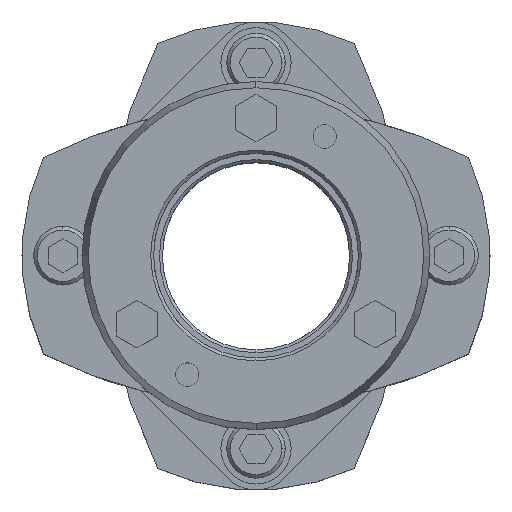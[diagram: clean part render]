
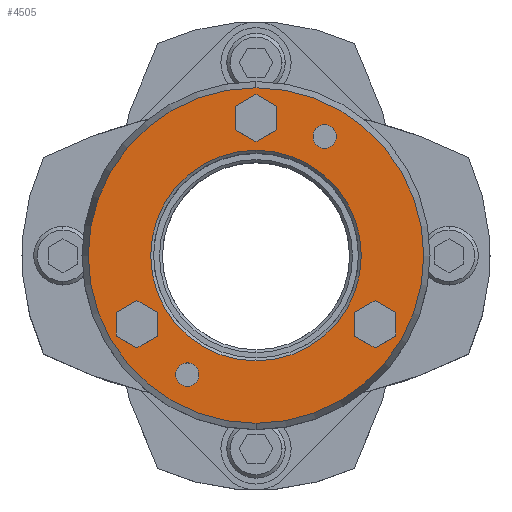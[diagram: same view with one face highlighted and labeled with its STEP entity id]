
A CAD part, top view. The second image highlights one B-rep face of the part: STEP entity #4505.
In plain terms, the highlighted planar face has unit normal (0, 0, 1).
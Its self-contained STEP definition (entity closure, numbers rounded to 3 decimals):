
#2379=CARTESIAN_POINT('',(0.,18.,45.25));
#2380=VERTEX_POINT('',#2379);
#2396=CARTESIAN_POINT('',(0.,-18.,45.25));
#2397=VERTEX_POINT('',#2396);
#2404=CARTESIAN_POINT('',(0.,0.,45.25));
#2405=DIRECTION('',(0.0,0.0,1.0));
#2406=DIRECTION('',(0.,1.0,0.0));
#2407=AXIS2_PLACEMENT_3D('',#2404,#2405,#2406);
#2408=CIRCLE('',#2407,18.0);
#2409=EDGE_CURVE('',#2397,#2380,#2408,.T.);
#2567=CARTESIAN_POINT('',(0.,-28.678,45.25));
#2568=VERTEX_POINT('',#2567);
#2575=CARTESIAN_POINT('',(0.,28.678,45.25));
#2576=VERTEX_POINT('',#2575);
#2577=CARTESIAN_POINT('',(0.,0.,45.25));
#2578=DIRECTION('',(0.0,0.0,-1.0));
#2579=DIRECTION('',(0.,-1.0,0.0));
#2580=AXIS2_PLACEMENT_3D('',#2577,#2578,#2579);
#2581=CIRCLE('',#2580,28.678);
#2582=EDGE_CURVE('',#2568,#2576,#2581,.T.);
#2695=CARTESIAN_POINT('',(-11.75,-18.352,45.25));
#2696=VERTEX_POINT('',#2695);
#2712=CARTESIAN_POINT('',(-11.75,-22.352,45.25));
#2713=VERTEX_POINT('',#2712);
#2720=CARTESIAN_POINT('',(-11.75,-20.352,45.25));
#2721=DIRECTION('',(0.0,0.0,-1.0));
#2722=DIRECTION('',(0.,1.0,0.0));
#2723=AXIS2_PLACEMENT_3D('',#2720,#2721,#2722);
#2724=CIRCLE('',#2723,2.0);
#2725=EDGE_CURVE('',#2696,#2713,#2724,.T.);
#2737=CARTESIAN_POINT('',(11.75,22.352,45.25));
#2738=VERTEX_POINT('',#2737);
#2754=CARTESIAN_POINT('',(11.75,18.352,45.25));
#2755=VERTEX_POINT('',#2754);
#2762=CARTESIAN_POINT('',(11.75,20.352,45.25));
#2763=DIRECTION('',(0.0,0.0,-1.0));
#2764=DIRECTION('',(0.,1.0,0.0));
#2765=AXIS2_PLACEMENT_3D('',#2762,#2763,#2764);
#2766=CIRCLE('',#2765,2.0);
#2767=EDGE_CURVE('',#2738,#2755,#2766,.T.);
#3518=CARTESIAN_POINT('',(11.75,20.352,45.25));
#3519=DIRECTION('',(0.0,0.0,-1.0));
#3520=DIRECTION('',(0.,1.0,0.0));
#3521=AXIS2_PLACEMENT_3D('',#3518,#3519,#3520);
#3522=CIRCLE('',#3521,2.0);
#3523=EDGE_CURVE('',#2755,#2738,#3522,.T.);
#3552=CARTESIAN_POINT('',(-11.75,-20.352,45.25));
#3553=DIRECTION('',(0.0,0.0,-1.0));
#3554=DIRECTION('',(0.,1.0,0.0));
#3555=AXIS2_PLACEMENT_3D('',#3552,#3553,#3554);
#3556=CIRCLE('',#3555,2.0);
#3557=EDGE_CURVE('',#2713,#2696,#3556,.T.);
#3595=CARTESIAN_POINT('',(0.,27.541,45.25));
#3596=VERTEX_POINT('',#3595);
#3603=CARTESIAN_POINT('',(-3.5,25.521,45.25));
#3604=VERTEX_POINT('',#3603);
#3605=CARTESIAN_POINT('',(-3.5,25.521,45.25));
#3606=DIRECTION('',(0.866,0.5,0.0));
#3607=VECTOR('',#3606,4.041);
#3608=LINE('',#3605,#3607);
#3609=EDGE_CURVE('',#3604,#3596,#3608,.T.);
#3633=CARTESIAN_POINT('',(3.5,25.521,45.25));
#3634=VERTEX_POINT('',#3633);
#3641=CARTESIAN_POINT('',(0.,27.541,45.25));
#3642=DIRECTION('',(0.866,-0.5,0.0));
#3643=VECTOR('',#3642,4.041);
#3644=LINE('',#3641,#3643);
#3645=EDGE_CURVE('',#3596,#3634,#3644,.T.);
#3664=CARTESIAN_POINT('',(3.5,21.479,45.25));
#3665=VERTEX_POINT('',#3664);
#3672=CARTESIAN_POINT('',(3.5,25.521,45.25));
#3673=DIRECTION('',(0.,-1.0,0.0));
#3674=VECTOR('',#3673,4.041);
#3675=LINE('',#3672,#3674);
#3676=EDGE_CURVE('',#3634,#3665,#3675,.T.);
#3695=CARTESIAN_POINT('',(0.,19.459,45.25));
#3696=VERTEX_POINT('',#3695);
#3703=CARTESIAN_POINT('',(3.5,21.479,45.25));
#3704=DIRECTION('',(-0.866,-0.5,0.0));
#3705=VECTOR('',#3704,4.041);
#3706=LINE('',#3703,#3705);
#3707=EDGE_CURVE('',#3665,#3696,#3706,.T.);
#3726=CARTESIAN_POINT('',(-3.5,21.479,45.25));
#3727=VERTEX_POINT('',#3726);
#3734=CARTESIAN_POINT('',(0.,19.459,45.25));
#3735=DIRECTION('',(-0.866,0.5,0.0));
#3736=VECTOR('',#3735,4.041);
#3737=LINE('',#3734,#3736);
#3738=EDGE_CURVE('',#3696,#3727,#3737,.T.);
#3756=CARTESIAN_POINT('',(-3.5,21.479,45.25));
#3757=DIRECTION('',(0.,1.0,0.0));
#3758=VECTOR('',#3757,4.041);
#3759=LINE('',#3756,#3758);
#3760=EDGE_CURVE('',#3727,#3604,#3759,.T.);
#3795=CARTESIAN_POINT('',(20.352,-7.709,45.25));
#3796=VERTEX_POINT('',#3795);
#3803=CARTESIAN_POINT('',(16.852,-9.729,45.25));
#3804=VERTEX_POINT('',#3803);
#3805=CARTESIAN_POINT('',(16.852,-9.729,45.25));
#3806=DIRECTION('',(0.866,0.5,0.0));
#3807=VECTOR('',#3806,4.041);
#3808=LINE('',#3805,#3807);
#3809=EDGE_CURVE('',#3804,#3796,#3808,.T.);
#3833=CARTESIAN_POINT('',(23.852,-9.729,45.25));
#3834=VERTEX_POINT('',#3833);
#3841=CARTESIAN_POINT('',(20.352,-7.709,45.25));
#3842=DIRECTION('',(0.866,-0.5,0.0));
#3843=VECTOR('',#3842,4.041);
#3844=LINE('',#3841,#3843);
#3845=EDGE_CURVE('',#3796,#3834,#3844,.T.);
#3864=CARTESIAN_POINT('',(23.852,-13.771,45.25));
#3865=VERTEX_POINT('',#3864);
#3872=CARTESIAN_POINT('',(23.852,-9.729,45.25));
#3873=DIRECTION('',(0.,-1.0,0.0));
#3874=VECTOR('',#3873,4.041);
#3875=LINE('',#3872,#3874);
#3876=EDGE_CURVE('',#3834,#3865,#3875,.T.);
#3895=CARTESIAN_POINT('',(20.352,-15.791,45.25));
#3896=VERTEX_POINT('',#3895);
#3903=CARTESIAN_POINT('',(23.852,-13.771,45.25));
#3904=DIRECTION('',(-0.866,-0.5,0.0));
#3905=VECTOR('',#3904,4.041);
#3906=LINE('',#3903,#3905);
#3907=EDGE_CURVE('',#3865,#3896,#3906,.T.);
#3926=CARTESIAN_POINT('',(16.852,-13.771,45.25));
#3927=VERTEX_POINT('',#3926);
#3934=CARTESIAN_POINT('',(20.352,-15.791,45.25));
#3935=DIRECTION('',(-0.866,0.5,0.0));
#3936=VECTOR('',#3935,4.041);
#3937=LINE('',#3934,#3936);
#3938=EDGE_CURVE('',#3896,#3927,#3937,.T.);
#3956=CARTESIAN_POINT('',(16.852,-13.771,45.25));
#3957=DIRECTION('',(0.,1.0,0.0));
#3958=VECTOR('',#3957,4.041);
#3959=LINE('',#3956,#3958);
#3960=EDGE_CURVE('',#3927,#3804,#3959,.T.);
#3995=CARTESIAN_POINT('',(-20.352,-7.709,45.25));
#3996=VERTEX_POINT('',#3995);
#4003=CARTESIAN_POINT('',(-23.852,-9.729,45.25));
#4004=VERTEX_POINT('',#4003);
#4005=CARTESIAN_POINT('',(-23.852,-9.729,45.25));
#4006=DIRECTION('',(0.866,0.5,0.0));
#4007=VECTOR('',#4006,4.041);
#4008=LINE('',#4005,#4007);
#4009=EDGE_CURVE('',#4004,#3996,#4008,.T.);
#4033=CARTESIAN_POINT('',(-16.852,-9.729,45.25));
#4034=VERTEX_POINT('',#4033);
#4041=CARTESIAN_POINT('',(-20.352,-7.709,45.25));
#4042=DIRECTION('',(0.866,-0.5,0.0));
#4043=VECTOR('',#4042,4.041);
#4044=LINE('',#4041,#4043);
#4045=EDGE_CURVE('',#3996,#4034,#4044,.T.);
#4064=CARTESIAN_POINT('',(-16.852,-13.771,45.25));
#4065=VERTEX_POINT('',#4064);
#4072=CARTESIAN_POINT('',(-16.852,-9.729,45.25));
#4073=DIRECTION('',(0.,-1.0,0.0));
#4074=VECTOR('',#4073,4.041);
#4075=LINE('',#4072,#4074);
#4076=EDGE_CURVE('',#4034,#4065,#4075,.T.);
#4095=CARTESIAN_POINT('',(-20.352,-15.791,45.25));
#4096=VERTEX_POINT('',#4095);
#4103=CARTESIAN_POINT('',(-16.852,-13.771,45.25));
#4104=DIRECTION('',(-0.866,-0.5,0.0));
#4105=VECTOR('',#4104,4.041);
#4106=LINE('',#4103,#4105);
#4107=EDGE_CURVE('',#4065,#4096,#4106,.T.);
#4126=CARTESIAN_POINT('',(-23.852,-13.771,45.25));
#4127=VERTEX_POINT('',#4126);
#4134=CARTESIAN_POINT('',(-20.352,-15.791,45.25));
#4135=DIRECTION('',(-0.866,0.5,0.0));
#4136=VECTOR('',#4135,4.041);
#4137=LINE('',#4134,#4136);
#4138=EDGE_CURVE('',#4096,#4127,#4137,.T.);
#4156=CARTESIAN_POINT('',(-23.852,-13.771,45.25));
#4157=DIRECTION('',(0.,1.0,0.0));
#4158=VECTOR('',#4157,4.041);
#4159=LINE('',#4156,#4158);
#4160=EDGE_CURVE('',#4127,#4004,#4159,.T.);
#4444=CARTESIAN_POINT('',(0.,0.,45.25));
#4445=DIRECTION('',(0.0,0.0,-1.0));
#4446=DIRECTION('',(0.,-1.0,0.0));
#4447=AXIS2_PLACEMENT_3D('',#4444,#4445,#4446);
#4448=CIRCLE('',#4447,28.678);
#4449=EDGE_CURVE('',#2576,#2568,#4448,.T.);
#4454=CARTESIAN_POINT('',(0.,2.364,45.25));
#4455=DIRECTION('',(0.0,0.0,1.0));
#4456=DIRECTION('',(0.,1.0,0.0));
#4457=AXIS2_PLACEMENT_3D('',#4454,#4455,#4456);
#4458=PLANE('',#4457);
#4459=ORIENTED_EDGE('',*,*,#4449,.F.);
#4460=ORIENTED_EDGE('',*,*,#2582,.F.);
#4461=EDGE_LOOP('',(#4459,#4460));
#4462=FACE_OUTER_BOUND('',#4461,.T.);
#4463=ORIENTED_EDGE('',*,*,#2767,.T.);
#4464=ORIENTED_EDGE('',*,*,#3523,.T.);
#4465=EDGE_LOOP('',(#4463,#4464));
#4466=FACE_BOUND('',#4465,.T.);
#4467=ORIENTED_EDGE('',*,*,#2725,.T.);
#4468=ORIENTED_EDGE('',*,*,#3557,.T.);
#4469=EDGE_LOOP('',(#4467,#4468));
#4470=FACE_BOUND('',#4469,.T.);
#4471=ORIENTED_EDGE('',*,*,#3609,.T.);
#4472=ORIENTED_EDGE('',*,*,#3645,.T.);
#4473=ORIENTED_EDGE('',*,*,#3676,.T.);
#4474=ORIENTED_EDGE('',*,*,#3707,.T.);
#4475=ORIENTED_EDGE('',*,*,#3738,.T.);
#4476=ORIENTED_EDGE('',*,*,#3760,.T.);
#4477=EDGE_LOOP('',(#4471,#4472,#4473,#4474,#4475,#4476));
#4478=FACE_BOUND('',#4477,.T.);
#4479=ORIENTED_EDGE('',*,*,#3809,.T.);
#4480=ORIENTED_EDGE('',*,*,#3845,.T.);
#4481=ORIENTED_EDGE('',*,*,#3876,.T.);
#4482=ORIENTED_EDGE('',*,*,#3907,.T.);
#4483=ORIENTED_EDGE('',*,*,#3938,.T.);
#4484=ORIENTED_EDGE('',*,*,#3960,.T.);
#4485=EDGE_LOOP('',(#4479,#4480,#4481,#4482,#4483,#4484));
#4486=FACE_BOUND('',#4485,.T.);
#4487=ORIENTED_EDGE('',*,*,#4009,.T.);
#4488=ORIENTED_EDGE('',*,*,#4045,.T.);
#4489=ORIENTED_EDGE('',*,*,#4076,.T.);
#4490=ORIENTED_EDGE('',*,*,#4107,.T.);
#4491=ORIENTED_EDGE('',*,*,#4138,.T.);
#4492=ORIENTED_EDGE('',*,*,#4160,.T.);
#4493=EDGE_LOOP('',(#4487,#4488,#4489,#4490,#4491,#4492));
#4494=FACE_BOUND('',#4493,.T.);
#4495=ORIENTED_EDGE('',*,*,#2409,.F.);
#4496=CARTESIAN_POINT('',(0.,0.,45.25));
#4497=DIRECTION('',(0.0,0.0,1.0));
#4498=DIRECTION('',(0.,1.0,0.0));
#4499=AXIS2_PLACEMENT_3D('',#4496,#4497,#4498);
#4500=CIRCLE('',#4499,18.0);
#4501=EDGE_CURVE('',#2380,#2397,#4500,.T.);
#4502=ORIENTED_EDGE('',*,*,#4501,.F.);
#4503=EDGE_LOOP('',(#4495,#4502));
#4504=FACE_BOUND('',#4503,.T.);
#4505=ADVANCED_FACE('',(#4462,#4466,#4470,#4478,#4486,#4494,#4504),#4458,.T.);
